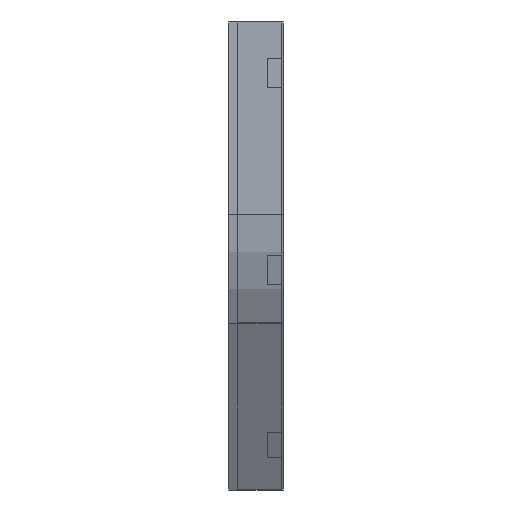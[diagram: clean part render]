
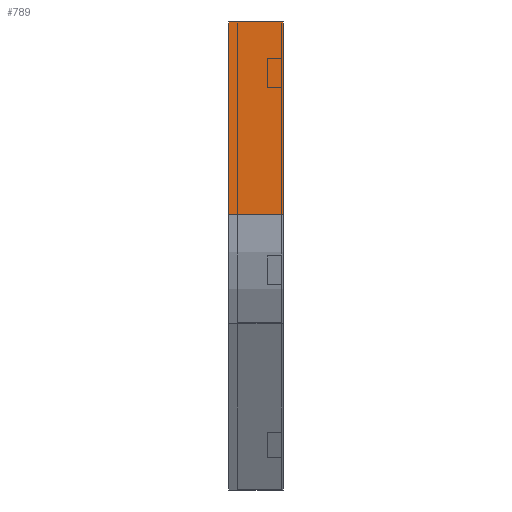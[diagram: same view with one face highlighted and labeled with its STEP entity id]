
A CAD part, left-side view. The second image highlights one B-rep face of the part: STEP entity #789.
In plain terms, the highlighted planar face has unit normal (-1, 0, 0).
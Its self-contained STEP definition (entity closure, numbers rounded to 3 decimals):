
#49 = VECTOR ( 'NONE', #877, 1000. ) ;
#106 = EDGE_CURVE ( 'NONE', #1139, #1461, #1247, .T. ) ;
#130 = CARTESIAN_POINT ( 'NONE',  ( 0., 0., 0. ) ) ;
#131 = ORIENTED_EDGE ( 'NONE', *, *, #1623, .T. ) ;
#414 = VERTEX_POINT ( 'NONE', #1271 ) ;
#448 = LINE ( 'NONE', #1731, #49 ) ;
#452 = CARTESIAN_POINT ( 'NONE',  ( 0., 0., 0. ) ) ;
#475 = VECTOR ( 'NONE', #568, 1000. ) ;
#554 = FACE_OUTER_BOUND ( 'NONE', #1305, .T. ) ;
#568 = DIRECTION ( 'NONE',  ( 0., 0., -1. ) ) ;
#592 = PLANE ( 'NONE',  #957 ) ;
#632 = VERTEX_POINT ( 'NONE', #1390 ) ;
#718 = DIRECTION ( 'NONE',  ( 1., 0., 0. ) ) ;
#754 = LINE ( 'NONE', #452, #1606 ) ;
#789 = ADVANCED_FACE ( 'NONE', ( #554 ), #592, .F. ) ;
#877 = DIRECTION ( 'NONE',  ( 0., -1., 0. ) ) ;
#957 = AXIS2_PLACEMENT_3D ( 'NONE', #1173, #718, #1568 ) ;
#989 = CARTESIAN_POINT ( 'NONE',  ( 0., 75., 0. ) ) ;
#1127 = VECTOR ( 'NONE', #1779, 1000. ) ;
#1135 = CARTESIAN_POINT ( 'NONE',  ( 0., 0., 0. ) ) ;
#1139 = VERTEX_POINT ( 'NONE', #130 ) ;
#1173 = CARTESIAN_POINT ( 'NONE',  ( 0., 0., 0. ) ) ;
#1247 = LINE ( 'NONE', #1135, #1127 ) ;
#1266 = LINE ( 'NONE', #989, #475 ) ;
#1271 = CARTESIAN_POINT ( 'NONE',  ( 0., 75., -264.359 ) ) ;
#1305 = EDGE_LOOP ( 'NONE', ( #1701, #1331, #131, #1341 ) ) ;
#1331 = ORIENTED_EDGE ( 'NONE', *, *, #1356, .F. ) ;
#1341 = ORIENTED_EDGE ( 'NONE', *, *, #1679, .T. ) ;
#1356 = EDGE_CURVE ( 'NONE', #632, #1139, #754, .T. ) ;
#1390 = CARTESIAN_POINT ( 'NONE',  ( 0., 75., 0. ) ) ;
#1461 = VERTEX_POINT ( 'NONE', #1814 ) ;
#1568 = DIRECTION ( 'NONE',  ( 0., 0., -1. ) ) ;
#1592 = DIRECTION ( 'NONE',  ( 0., -1., 0. ) ) ;
#1606 = VECTOR ( 'NONE', #1592, 1000. ) ;
#1623 = EDGE_CURVE ( 'NONE', #632, #414, #1266, .T. ) ;
#1679 = EDGE_CURVE ( 'NONE', #414, #1461, #448, .T. ) ;
#1701 = ORIENTED_EDGE ( 'NONE', *, *, #106, .F. ) ;
#1731 = CARTESIAN_POINT ( 'NONE',  ( 0., 0., -264.359 ) ) ;
#1779 = DIRECTION ( 'NONE',  ( 0., 0., -1. ) ) ;
#1814 = CARTESIAN_POINT ( 'NONE',  ( 0., 0., -264.359 ) ) ;
